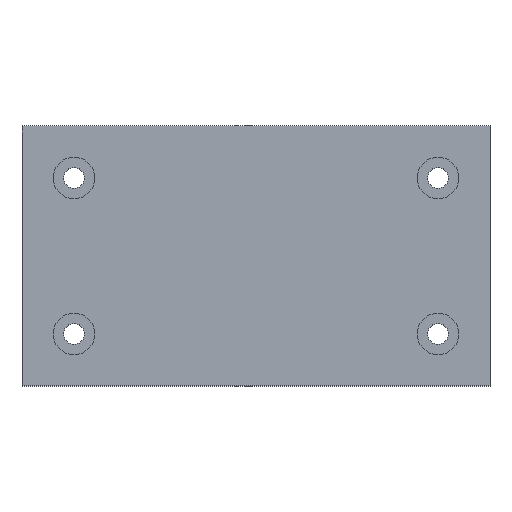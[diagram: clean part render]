
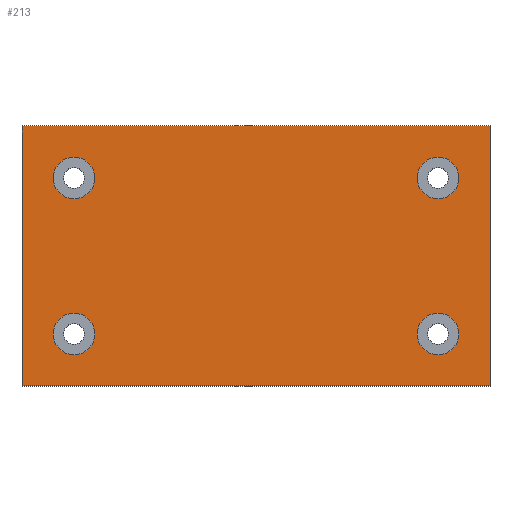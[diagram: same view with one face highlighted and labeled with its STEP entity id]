
A CAD part, top view. The second image highlights one B-rep face of the part: STEP entity #213.
In plain terms, the highlighted planar face has unit normal (0, 0, 1).
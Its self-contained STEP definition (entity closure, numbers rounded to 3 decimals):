
#24 = VERTEX_POINT('',#25);
#25 = CARTESIAN_POINT('',(-45.,-25.,5.));
#32 = PLANE('',#33);
#33 = AXIS2_PLACEMENT_3D('',#34,#35,#36);
#34 = CARTESIAN_POINT('',(-45.,-25.,0.));
#35 = DIRECTION('',(1.,0.,0.));
#36 = DIRECTION('',(0.,0.,1.));
#44 = PLANE('',#45);
#45 = AXIS2_PLACEMENT_3D('',#46,#47,#48);
#46 = CARTESIAN_POINT('',(-45.,-25.,0.));
#47 = DIRECTION('',(0.,1.,0.));
#48 = DIRECTION('',(0.,0.,1.));
#85 = VERTEX_POINT('',#86);
#86 = CARTESIAN_POINT('',(-45.,25.,5.));
#100 = PLANE('',#101);
#101 = AXIS2_PLACEMENT_3D('',#102,#103,#104);
#102 = CARTESIAN_POINT('',(-45.,25.,0.));
#103 = DIRECTION('',(0.,1.,0.));
#104 = DIRECTION('',(0.,0.,1.));
#112 = EDGE_CURVE('',#24,#85,#113,.T.);
#113 = SURFACE_CURVE('',#114,(#118,#125),.PCURVE_S1.);
#114 = LINE('',#115,#116);
#115 = CARTESIAN_POINT('',(-45.,-25.,5.));
#116 = VECTOR('',#117,1.);
#117 = DIRECTION('',(0.,1.,0.));
#118 = PCURVE('',#32,#119);
#119 = DEFINITIONAL_REPRESENTATION('',(#120),#124);
#120 = LINE('',#121,#122);
#121 = CARTESIAN_POINT('',(5.,0.));
#122 = VECTOR('',#123,1.);
#123 = DIRECTION('',(0.,-1.));
#124 = ( GEOMETRIC_REPRESENTATION_CONTEXT(2) 
PARAMETRIC_REPRESENTATION_CONTEXT() REPRESENTATION_CONTEXT('2D SPACE',''
  ) );
#125 = PCURVE('',#126,#131);
#126 = PLANE('',#127);
#127 = AXIS2_PLACEMENT_3D('',#128,#129,#130);
#128 = CARTESIAN_POINT('',(-45.,-25.,5.));
#129 = DIRECTION('',(0.,0.,1.));
#130 = DIRECTION('',(1.,0.,0.));
#131 = DEFINITIONAL_REPRESENTATION('',(#132),#136);
#132 = LINE('',#133,#134);
#133 = CARTESIAN_POINT('',(0.,0.));
#134 = VECTOR('',#135,1.);
#135 = DIRECTION('',(0.,1.));
#136 = ( GEOMETRIC_REPRESENTATION_CONTEXT(2) 
PARAMETRIC_REPRESENTATION_CONTEXT() REPRESENTATION_CONTEXT('2D SPACE',''
  ) );
#165 = EDGE_CURVE('',#24,#166,#168,.T.);
#166 = VERTEX_POINT('',#167);
#167 = CARTESIAN_POINT('',(45.,-25.,5.));
#168 = SURFACE_CURVE('',#169,(#173,#180),.PCURVE_S1.);
#169 = LINE('',#170,#171);
#170 = CARTESIAN_POINT('',(-45.,-25.,5.));
#171 = VECTOR('',#172,1.);
#172 = DIRECTION('',(1.,0.,0.));
#173 = PCURVE('',#44,#174);
#174 = DEFINITIONAL_REPRESENTATION('',(#175),#179);
#175 = LINE('',#176,#177);
#176 = CARTESIAN_POINT('',(5.,0.));
#177 = VECTOR('',#178,1.);
#178 = DIRECTION('',(0.,1.));
#179 = ( GEOMETRIC_REPRESENTATION_CONTEXT(2) 
PARAMETRIC_REPRESENTATION_CONTEXT() REPRESENTATION_CONTEXT('2D SPACE',''
  ) );
#180 = PCURVE('',#126,#181);
#181 = DEFINITIONAL_REPRESENTATION('',(#182),#186);
#182 = LINE('',#183,#184);
#183 = CARTESIAN_POINT('',(0.,0.));
#184 = VECTOR('',#185,1.);
#185 = DIRECTION('',(1.,0.));
#186 = ( GEOMETRIC_REPRESENTATION_CONTEXT(2) 
PARAMETRIC_REPRESENTATION_CONTEXT() REPRESENTATION_CONTEXT('2D SPACE',''
  ) );
#202 = PLANE('',#203);
#203 = AXIS2_PLACEMENT_3D('',#204,#205,#206);
#204 = CARTESIAN_POINT('',(45.,-25.,0.));
#205 = DIRECTION('',(1.,0.,0.));
#206 = DIRECTION('',(0.,0.,1.));
#213 = ADVANCED_FACE('',(#214,#262,#293,#324,#355),#126,.T.);
#214 = FACE_BOUND('',#215,.T.);
#215 = EDGE_LOOP('',(#216,#217,#218,#241));
#216 = ORIENTED_EDGE('',*,*,#112,.F.);
#217 = ORIENTED_EDGE('',*,*,#165,.T.);
#218 = ORIENTED_EDGE('',*,*,#219,.T.);
#219 = EDGE_CURVE('',#166,#220,#222,.T.);
#220 = VERTEX_POINT('',#221);
#221 = CARTESIAN_POINT('',(45.,25.,5.));
#222 = SURFACE_CURVE('',#223,(#227,#234),.PCURVE_S1.);
#223 = LINE('',#224,#225);
#224 = CARTESIAN_POINT('',(45.,-25.,5.));
#225 = VECTOR('',#226,1.);
#226 = DIRECTION('',(0.,1.,0.));
#227 = PCURVE('',#126,#228);
#228 = DEFINITIONAL_REPRESENTATION('',(#229),#233);
#229 = LINE('',#230,#231);
#230 = CARTESIAN_POINT('',(90.,0.));
#231 = VECTOR('',#232,1.);
#232 = DIRECTION('',(0.,1.));
#233 = ( GEOMETRIC_REPRESENTATION_CONTEXT(2) 
PARAMETRIC_REPRESENTATION_CONTEXT() REPRESENTATION_CONTEXT('2D SPACE',''
  ) );
#234 = PCURVE('',#202,#235);
#235 = DEFINITIONAL_REPRESENTATION('',(#236),#240);
#236 = LINE('',#237,#238);
#237 = CARTESIAN_POINT('',(5.,0.));
#238 = VECTOR('',#239,1.);
#239 = DIRECTION('',(0.,-1.));
#240 = ( GEOMETRIC_REPRESENTATION_CONTEXT(2) 
PARAMETRIC_REPRESENTATION_CONTEXT() REPRESENTATION_CONTEXT('2D SPACE',''
  ) );
#241 = ORIENTED_EDGE('',*,*,#242,.F.);
#242 = EDGE_CURVE('',#85,#220,#243,.T.);
#243 = SURFACE_CURVE('',#244,(#248,#255),.PCURVE_S1.);
#244 = LINE('',#245,#246);
#245 = CARTESIAN_POINT('',(-45.,25.,5.));
#246 = VECTOR('',#247,1.);
#247 = DIRECTION('',(1.,0.,0.));
#248 = PCURVE('',#126,#249);
#249 = DEFINITIONAL_REPRESENTATION('',(#250),#254);
#250 = LINE('',#251,#252);
#251 = CARTESIAN_POINT('',(0.,50.));
#252 = VECTOR('',#253,1.);
#253 = DIRECTION('',(1.,0.));
#254 = ( GEOMETRIC_REPRESENTATION_CONTEXT(2) 
PARAMETRIC_REPRESENTATION_CONTEXT() REPRESENTATION_CONTEXT('2D SPACE',''
  ) );
#255 = PCURVE('',#100,#256);
#256 = DEFINITIONAL_REPRESENTATION('',(#257),#261);
#257 = LINE('',#258,#259);
#258 = CARTESIAN_POINT('',(5.,0.));
#259 = VECTOR('',#260,1.);
#260 = DIRECTION('',(0.,1.));
#261 = ( GEOMETRIC_REPRESENTATION_CONTEXT(2) 
PARAMETRIC_REPRESENTATION_CONTEXT() REPRESENTATION_CONTEXT('2D SPACE',''
  ) );
#262 = FACE_BOUND('',#263,.T.);
#263 = EDGE_LOOP('',(#264));
#264 = ORIENTED_EDGE('',*,*,#265,.F.);
#265 = EDGE_CURVE('',#266,#266,#268,.T.);
#266 = VERTEX_POINT('',#267);
#267 = CARTESIAN_POINT('',(-31.,-15.,5.));
#268 = SURFACE_CURVE('',#269,(#274,#281),.PCURVE_S1.);
#269 = CIRCLE('',#270,4.);
#270 = AXIS2_PLACEMENT_3D('',#271,#272,#273);
#271 = CARTESIAN_POINT('',(-35.,-15.,5.));
#272 = DIRECTION('',(0.,0.,1.));
#273 = DIRECTION('',(1.,0.,-0.));
#274 = PCURVE('',#126,#275);
#275 = DEFINITIONAL_REPRESENTATION('',(#276),#280);
#276 = CIRCLE('',#277,4.);
#277 = AXIS2_PLACEMENT_2D('',#278,#279);
#278 = CARTESIAN_POINT('',(10.,10.));
#279 = DIRECTION('',(1.,0.));
#280 = ( GEOMETRIC_REPRESENTATION_CONTEXT(2) 
PARAMETRIC_REPRESENTATION_CONTEXT() REPRESENTATION_CONTEXT('2D SPACE',''
  ) );
#281 = PCURVE('',#282,#287);
#282 = CYLINDRICAL_SURFACE('',#283,4.);
#283 = AXIS2_PLACEMENT_3D('',#284,#285,#286);
#284 = CARTESIAN_POINT('',(-35.,-15.,2.5));
#285 = DIRECTION('',(0.,0.,1.));
#286 = DIRECTION('',(1.,0.,0.));
#287 = DEFINITIONAL_REPRESENTATION('',(#288),#292);
#288 = LINE('',#289,#290);
#289 = CARTESIAN_POINT('',(0.,2.5));
#290 = VECTOR('',#291,1.);
#291 = DIRECTION('',(1.,0.));
#292 = ( GEOMETRIC_REPRESENTATION_CONTEXT(2) 
PARAMETRIC_REPRESENTATION_CONTEXT() REPRESENTATION_CONTEXT('2D SPACE',''
  ) );
#293 = FACE_BOUND('',#294,.T.);
#294 = EDGE_LOOP('',(#295));
#295 = ORIENTED_EDGE('',*,*,#296,.F.);
#296 = EDGE_CURVE('',#297,#297,#299,.T.);
#297 = VERTEX_POINT('',#298);
#298 = CARTESIAN_POINT('',(39.,-15.,5.));
#299 = SURFACE_CURVE('',#300,(#305,#312),.PCURVE_S1.);
#300 = CIRCLE('',#301,4.);
#301 = AXIS2_PLACEMENT_3D('',#302,#303,#304);
#302 = CARTESIAN_POINT('',(35.,-15.,5.));
#303 = DIRECTION('',(0.,0.,1.));
#304 = DIRECTION('',(1.,0.,-0.));
#305 = PCURVE('',#126,#306);
#306 = DEFINITIONAL_REPRESENTATION('',(#307),#311);
#307 = CIRCLE('',#308,4.);
#308 = AXIS2_PLACEMENT_2D('',#309,#310);
#309 = CARTESIAN_POINT('',(80.,10.));
#310 = DIRECTION('',(1.,0.));
#311 = ( GEOMETRIC_REPRESENTATION_CONTEXT(2) 
PARAMETRIC_REPRESENTATION_CONTEXT() REPRESENTATION_CONTEXT('2D SPACE',''
  ) );
#312 = PCURVE('',#313,#318);
#313 = CYLINDRICAL_SURFACE('',#314,4.);
#314 = AXIS2_PLACEMENT_3D('',#315,#316,#317);
#315 = CARTESIAN_POINT('',(35.,-15.,2.5));
#316 = DIRECTION('',(0.,0.,1.));
#317 = DIRECTION('',(1.,0.,0.));
#318 = DEFINITIONAL_REPRESENTATION('',(#319),#323);
#319 = LINE('',#320,#321);
#320 = CARTESIAN_POINT('',(0.,2.5));
#321 = VECTOR('',#322,1.);
#322 = DIRECTION('',(1.,0.));
#323 = ( GEOMETRIC_REPRESENTATION_CONTEXT(2) 
PARAMETRIC_REPRESENTATION_CONTEXT() REPRESENTATION_CONTEXT('2D SPACE',''
  ) );
#324 = FACE_BOUND('',#325,.T.);
#325 = EDGE_LOOP('',(#326));
#326 = ORIENTED_EDGE('',*,*,#327,.F.);
#327 = EDGE_CURVE('',#328,#328,#330,.T.);
#328 = VERTEX_POINT('',#329);
#329 = CARTESIAN_POINT('',(-31.,15.,5.));
#330 = SURFACE_CURVE('',#331,(#336,#343),.PCURVE_S1.);
#331 = CIRCLE('',#332,4.);
#332 = AXIS2_PLACEMENT_3D('',#333,#334,#335);
#333 = CARTESIAN_POINT('',(-35.,15.,5.));
#334 = DIRECTION('',(0.,0.,1.));
#335 = DIRECTION('',(1.,0.,-0.));
#336 = PCURVE('',#126,#337);
#337 = DEFINITIONAL_REPRESENTATION('',(#338),#342);
#338 = CIRCLE('',#339,4.);
#339 = AXIS2_PLACEMENT_2D('',#340,#341);
#340 = CARTESIAN_POINT('',(10.,40.));
#341 = DIRECTION('',(1.,0.));
#342 = ( GEOMETRIC_REPRESENTATION_CONTEXT(2) 
PARAMETRIC_REPRESENTATION_CONTEXT() REPRESENTATION_CONTEXT('2D SPACE',''
  ) );
#343 = PCURVE('',#344,#349);
#344 = CYLINDRICAL_SURFACE('',#345,4.);
#345 = AXIS2_PLACEMENT_3D('',#346,#347,#348);
#346 = CARTESIAN_POINT('',(-35.,15.,2.5));
#347 = DIRECTION('',(0.,0.,1.));
#348 = DIRECTION('',(1.,0.,0.));
#349 = DEFINITIONAL_REPRESENTATION('',(#350),#354);
#350 = LINE('',#351,#352);
#351 = CARTESIAN_POINT('',(0.,2.5));
#352 = VECTOR('',#353,1.);
#353 = DIRECTION('',(1.,0.));
#354 = ( GEOMETRIC_REPRESENTATION_CONTEXT(2) 
PARAMETRIC_REPRESENTATION_CONTEXT() REPRESENTATION_CONTEXT('2D SPACE',''
  ) );
#355 = FACE_BOUND('',#356,.T.);
#356 = EDGE_LOOP('',(#357));
#357 = ORIENTED_EDGE('',*,*,#358,.F.);
#358 = EDGE_CURVE('',#359,#359,#361,.T.);
#359 = VERTEX_POINT('',#360);
#360 = CARTESIAN_POINT('',(39.,15.,5.));
#361 = SURFACE_CURVE('',#362,(#367,#374),.PCURVE_S1.);
#362 = CIRCLE('',#363,4.);
#363 = AXIS2_PLACEMENT_3D('',#364,#365,#366);
#364 = CARTESIAN_POINT('',(35.,15.,5.));
#365 = DIRECTION('',(0.,0.,1.));
#366 = DIRECTION('',(1.,0.,-0.));
#367 = PCURVE('',#126,#368);
#368 = DEFINITIONAL_REPRESENTATION('',(#369),#373);
#369 = CIRCLE('',#370,4.);
#370 = AXIS2_PLACEMENT_2D('',#371,#372);
#371 = CARTESIAN_POINT('',(80.,40.));
#372 = DIRECTION('',(1.,0.));
#373 = ( GEOMETRIC_REPRESENTATION_CONTEXT(2) 
PARAMETRIC_REPRESENTATION_CONTEXT() REPRESENTATION_CONTEXT('2D SPACE',''
  ) );
#374 = PCURVE('',#375,#380);
#375 = CYLINDRICAL_SURFACE('',#376,4.);
#376 = AXIS2_PLACEMENT_3D('',#377,#378,#379);
#377 = CARTESIAN_POINT('',(35.,15.,2.5));
#378 = DIRECTION('',(0.,0.,1.));
#379 = DIRECTION('',(1.,0.,0.));
#380 = DEFINITIONAL_REPRESENTATION('',(#381),#385);
#381 = LINE('',#382,#383);
#382 = CARTESIAN_POINT('',(0.,2.5));
#383 = VECTOR('',#384,1.);
#384 = DIRECTION('',(1.,0.));
#385 = ( GEOMETRIC_REPRESENTATION_CONTEXT(2) 
PARAMETRIC_REPRESENTATION_CONTEXT() REPRESENTATION_CONTEXT('2D SPACE',''
  ) );
